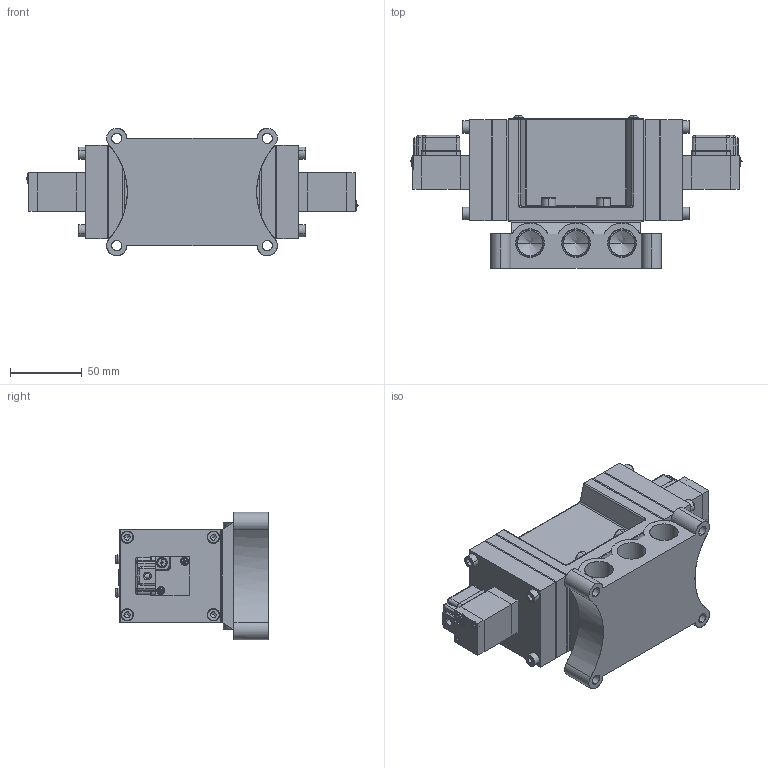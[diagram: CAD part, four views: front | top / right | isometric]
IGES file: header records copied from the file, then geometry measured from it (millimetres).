
Start section: SolidWorks IGES file using analytic representation for surfaces
Global section: file name: C:\Users\Toshiba\Desktop\PMD3410#-04-#G#.IGS; native system: SolidWorks 2014; preprocessor: SolidWorks 2014; author: Toshiba; date: 160121.144341; units: millimetre
Bounding box: 230.95 x 106.35 x 88.61 mm (x, y, z)
Surface area: 217590.1 mm2 (no closed solid volume)
Topology: 0 solids, 0 shells, 1166 faces, 12642 edges, 12586 vertices
Faces by surface type: bspline 716, revolution 450
